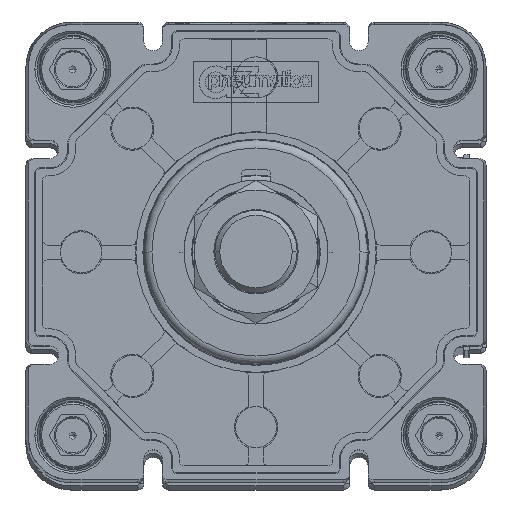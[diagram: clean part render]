
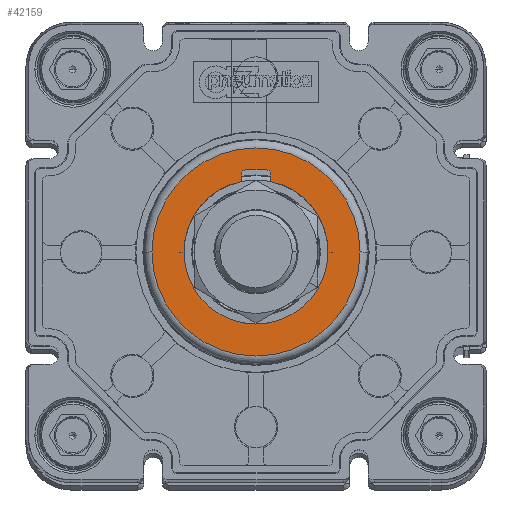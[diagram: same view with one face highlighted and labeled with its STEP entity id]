
A CAD part, top view. The second image highlights one B-rep face of the part: STEP entity #42159.
In plain terms, the highlighted planar face has unit normal (0, 0, 1) as drawn and (0, 0, -1) by its records, which use the part's own axes.
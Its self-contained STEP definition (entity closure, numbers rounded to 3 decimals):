
#360 = CIRCLE ( 'NONE', #64640, 25.282 ) ;
#672 = DIRECTION ( 'NONE',  ( 1., 0., 0. ) ) ;
#2581 = AXIS2_PLACEMENT_3D ( 'NONE', #10991, #61551, #83371 ) ;
#3173 = EDGE_CURVE ( 'NONE', #80511, #84759, #4633, .T. ) ;
#3331 = ORIENTED_EDGE ( 'NONE', *, *, #3173, .F. ) ;
#4633 = CIRCLE ( 'NONE', #17542, 1. ) ;
#6159 = CARTESIAN_POINT ( 'NONE',  ( 3.5, 19., -72. ) ) ;
#6483 = FACE_BOUND ( 'NONE', #42281, .T. ) ;
#6723 = CARTESIAN_POINT ( 'NONE',  ( 0., 0., -72. ) ) ;
#6959 = CARTESIAN_POINT ( 'NONE',  ( -3.5, 19., -72. ) ) ;
#7639 = AXIS2_PLACEMENT_3D ( 'NONE', #54423, #32406, #40167 ) ;
#7978 = VERTEX_POINT ( 'NONE', #55434 ) ;
#8361 = EDGE_CURVE ( 'NONE', #76973, #59946, #32686, .T. ) ;
#10803 = CIRCLE ( 'NONE', #2581, 25.282 ) ;
#10991 = CARTESIAN_POINT ( 'NONE',  ( 0., 0., -72. ) ) ;
#12625 = VERTEX_POINT ( 'NONE', #25269 ) ;
#13743 = DIRECTION ( 'NONE',  ( 0., 1., 0. ) ) ;
#14167 = DIRECTION ( 'NONE',  ( 0., 0., 1. ) ) ;
#16107 = EDGE_CURVE ( 'NONE', #72088, #66019, #92306, .T. ) ;
#16243 = AXIS2_PLACEMENT_3D ( 'NONE', #61764, #69769, #77433 ) ;
#17542 = AXIS2_PLACEMENT_3D ( 'NONE', #55114, #32810, #32161 ) ;
#20338 = AXIS2_PLACEMENT_3D ( 'NONE', #84140, #77328, #62932 ) ;
#22467 = AXIS2_PLACEMENT_3D ( 'NONE', #6723, #14167, #87538 ) ;
#23341 = DIRECTION ( 'NONE',  ( 0., 0., -1. ) ) ;
#25269 = CARTESIAN_POINT ( 'NONE',  ( -3.5, 19., -72. ) ) ;
#25303 = VERTEX_POINT ( 'NONE', #33133 ) ;
#25328 = PLANE ( 'NONE',  #7639 ) ;
#26051 = EDGE_CURVE ( 'NONE', #76973, #12625, #49568, .T. ) ;
#28200 = CARTESIAN_POINT ( 'NONE',  ( -25.282, 0., -72. ) ) ;
#28926 = ORIENTED_EDGE ( 'NONE', *, *, #75109, .T. ) ;
#29904 = VECTOR ( 'NONE', #13743, 1000. ) ;
#32161 = DIRECTION ( 'NONE',  ( -1., 0., 0. ) ) ;
#32406 = DIRECTION ( 'NONE',  ( 0., 0., -1. ) ) ;
#32686 = CIRCLE ( 'NONE', #16243, 17.5 ) ;
#32810 = DIRECTION ( 'NONE',  ( 0., 0., -1. ) ) ;
#32904 = VECTOR ( 'NONE', #71873, 1000. ) ;
#32922 = FACE_OUTER_BOUND ( 'NONE', #87405, .T. ) ;
#33133 = CARTESIAN_POINT ( 'NONE',  ( 25.282, 0., -72. ) ) ;
#33950 = AXIS2_PLACEMENT_3D ( 'NONE', #89499, #81059, #672 ) ;
#34307 = ORIENTED_EDGE ( 'NONE', *, *, #26051, .F. ) ;
#34795 = CARTESIAN_POINT ( 'NONE',  ( 17.5, 0., -72. ) ) ;
#35845 = CIRCLE ( 'NONE', #20338, 17.5 ) ;
#39105 = DIRECTION ( 'NONE',  ( -1., 0., 0. ) ) ;
#40167 = DIRECTION ( 'NONE',  ( -1., 0., 0. ) ) ;
#42159 = ADVANCED_FACE ( 'NONE', ( #32922, #6483 ), #25328, .T. ) ;
#42281 = EDGE_LOOP ( 'NONE', ( #34307, #78005, #54695, #78643, #56396, #3331, #82963, #47226 ) ) ;
#47226 = ORIENTED_EDGE ( 'NONE', *, *, #77490, .F. ) ;
#49568 = LINE ( 'NONE', #6959, #29904 ) ;
#50487 = VERTEX_POINT ( 'NONE', #28200 ) ;
#54423 = CARTESIAN_POINT ( 'NONE',  ( 0., 0., -72. ) ) ;
#54632 = LINE ( 'NONE', #69026, #67223 ) ;
#54695 = ORIENTED_EDGE ( 'NONE', *, *, #71901, .T. ) ;
#55114 = CARTESIAN_POINT ( 'NONE',  ( 2.5, 19., -72. ) ) ;
#55434 = CARTESIAN_POINT ( 'NONE',  ( -2.5, 20., -72. ) ) ;
#56396 = ORIENTED_EDGE ( 'NONE', *, *, #70509, .F. ) ;
#56496 = CARTESIAN_POINT ( 'NONE',  ( 3.5, 17.146, -72. ) ) ;
#59946 = VERTEX_POINT ( 'NONE', #70472 ) ;
#60749 = CARTESIAN_POINT ( 'NONE',  ( 0., 0., -72. ) ) ;
#61551 = DIRECTION ( 'NONE',  ( 0., 0., -1. ) ) ;
#61764 = CARTESIAN_POINT ( 'NONE',  ( 0., 0., -72. ) ) ;
#62932 = DIRECTION ( 'NONE',  ( 1., 0., 0. ) ) ;
#64640 = AXIS2_PLACEMENT_3D ( 'NONE', #60749, #23341, #39105 ) ;
#65872 = EDGE_CURVE ( 'NONE', #7978, #80511, #54632, .T. ) ;
#66019 = VERTEX_POINT ( 'NONE', #56496 ) ;
#67223 = VECTOR ( 'NONE', #70302, 1000. ) ;
#69026 = CARTESIAN_POINT ( 'NONE',  ( 2.5, 20., -72. ) ) ;
#69769 = DIRECTION ( 'NONE',  ( 0., 0., 1. ) ) ;
#70302 = DIRECTION ( 'NONE',  ( 1., 0., 0. ) ) ;
#70472 = CARTESIAN_POINT ( 'NONE',  ( -17.5, 0., -72. ) ) ;
#70509 = EDGE_CURVE ( 'NONE', #84759, #66019, #79009, .T. ) ;
#71873 = DIRECTION ( 'NONE',  ( 0., -1., 0. ) ) ;
#71901 = EDGE_CURVE ( 'NONE', #59946, #72088, #35845, .T. ) ;
#72088 = VERTEX_POINT ( 'NONE', #34795 ) ;
#72501 = CARTESIAN_POINT ( 'NONE',  ( 3.5, 19., -72. ) ) ;
#75109 = EDGE_CURVE ( 'NONE', #25303, #50487, #360, .T. ) ;
#75175 = ORIENTED_EDGE ( 'NONE', *, *, #85354, .T. ) ;
#76973 = VERTEX_POINT ( 'NONE', #85819 ) ;
#77328 = DIRECTION ( 'NONE',  ( 0., 0., 1. ) ) ;
#77433 = DIRECTION ( 'NONE',  ( 1., 0., 0. ) ) ;
#77490 = EDGE_CURVE ( 'NONE', #12625, #7978, #77773, .T. ) ;
#77773 = CIRCLE ( 'NONE', #33950, 1. ) ;
#78005 = ORIENTED_EDGE ( 'NONE', *, *, #8361, .T. ) ;
#78643 = ORIENTED_EDGE ( 'NONE', *, *, #16107, .T. ) ;
#79009 = LINE ( 'NONE', #72501, #32904 ) ;
#80511 = VERTEX_POINT ( 'NONE', #81131 ) ;
#81059 = DIRECTION ( 'NONE',  ( 0., 0., -1. ) ) ;
#81131 = CARTESIAN_POINT ( 'NONE',  ( 2.5, 20., -72. ) ) ;
#82963 = ORIENTED_EDGE ( 'NONE', *, *, #65872, .F. ) ;
#83371 = DIRECTION ( 'NONE',  ( -1., 0., 0. ) ) ;
#84140 = CARTESIAN_POINT ( 'NONE',  ( 0., 0., -72. ) ) ;
#84759 = VERTEX_POINT ( 'NONE', #6159 ) ;
#85354 = EDGE_CURVE ( 'NONE', #50487, #25303, #10803, .T. ) ;
#85819 = CARTESIAN_POINT ( 'NONE',  ( -3.5, 17.146, -72. ) ) ;
#87405 = EDGE_LOOP ( 'NONE', ( #75175, #28926 ) ) ;
#87538 = DIRECTION ( 'NONE',  ( 1., 0., 0. ) ) ;
#89499 = CARTESIAN_POINT ( 'NONE',  ( -2.5, 19., -72. ) ) ;
#92306 = CIRCLE ( 'NONE', #22467, 17.5 ) ;
